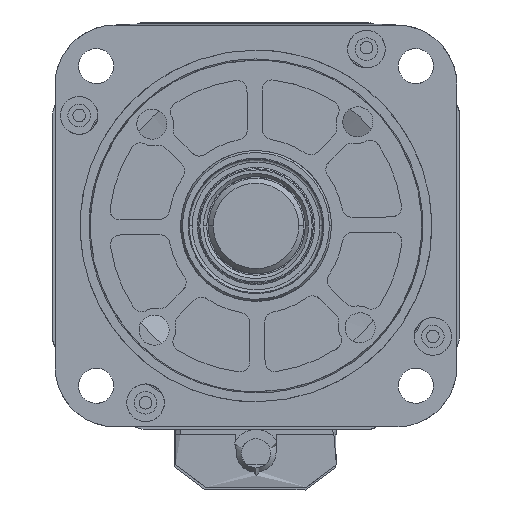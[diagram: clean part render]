
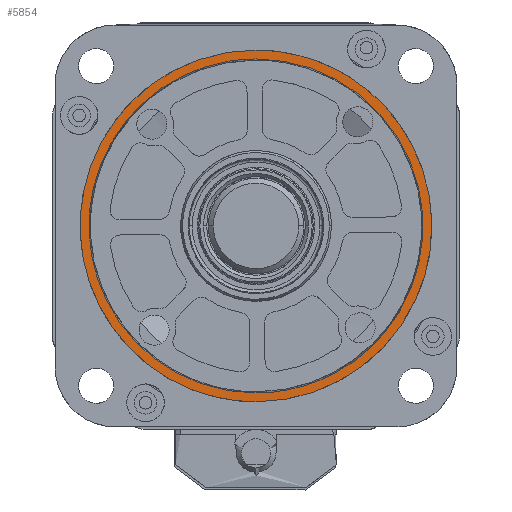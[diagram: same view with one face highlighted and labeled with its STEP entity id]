
A CAD part, left-side view. The second image highlights one B-rep face of the part: STEP entity #5854.
In plain terms, the highlighted free-form (B-spline) face has degree [1, 1] with [2, 2] control points.
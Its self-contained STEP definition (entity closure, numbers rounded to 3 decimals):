
#28 = CARTESIAN_POINT ( 'NONE',  ( -29.719, -37.31, 35.42 ) ) ;
#353 = ORIENTED_EDGE ( 'NONE', *, *, #11115, .F. ) ;
#1744 = CARTESIAN_POINT ( 'NONE',  ( -29.719, -1.89, -35. ) ) ;
#1923 = CARTESIAN_POINT ( 'NONE',  ( -29.719, -37.31, -35.42 ) ) ;
#2676 = FACE_OUTER_BOUND ( 'NONE', #16811, .T. ) ;
#3256 = CARTESIAN_POINT ( 'NONE',  ( -29.719, -1.89, -33.25 ) ) ;
#3331 = FACE_BOUND ( 'NONE', #8827, .T. ) ;
#3420 = EDGE_CURVE ( 'NONE', #13349, #6730, #10036, .T. ) ;
#3423 = CARTESIAN_POINT ( 'NONE',  ( -29.719, -1.89, 35. ) ) ;
#4642 = VERTEX_POINT ( 'NONE', #21099 ) ;
#4978 = CARTESIAN_POINT ( 'NONE',  ( -29.719, -1.89, 33.25 ) ) ;
#5297 = CARTESIAN_POINT ( 'NONE',  ( -29.719, 31.36, 0. ) ) ;
#5768 = EDGE_CURVE ( 'NONE', #4642, #19803, #19928, .T. ) ;
#5854 = ADVANCED_FACE ( 'NONE', ( #3331, #2676 ), #18238, .F. ) ;
#6021 = ORIENTED_EDGE ( 'NONE', *, *, #5768, .F. ) ;
#6192 = CARTESIAN_POINT ( 'NONE',  ( -29.719, -68.39, -33.25 ) ) ;
#6730 = VERTEX_POINT ( 'NONE', #14776 ) ;
#7203 = CARTESIAN_POINT ( 'NONE',  ( -29.719, 17.587, 33.25 ) ) ;
#8089 = CARTESIAN_POINT ( 'NONE',  ( -29.719, -1.89, 33.25 ) ) ;
#8827 = EDGE_LOOP ( 'NONE', ( #353, #13426 ) ) ;
#9372 = ORIENTED_EDGE ( 'NONE', *, *, #12222, .F. ) ;
#9707 = CARTESIAN_POINT ( 'NONE',  ( -29.719, 33.53, -35.42 ) ) ;
#10032 = CARTESIAN_POINT ( 'NONE',  ( -29.719, -1.89, -33.25 ) ) ;
#10036 =( BOUNDED_CURVE ( )  B_SPLINE_CURVE ( 3, ( #8089, #21609, #6192, #10032 ),
 .UNSPECIFIED., .F., .F. ) 
 B_SPLINE_CURVE_WITH_KNOTS ( ( 4, 4 ),
 ( -3.142, 0. ),
 .UNSPECIFIED. ) 
 CURVE ( )  GEOMETRIC_REPRESENTATION_ITEM ( )  RATIONAL_B_SPLINE_CURVE ( ( 1., 0.333, 0.333, 1. ) ) 
 REPRESENTATION_ITEM ( '' )  );
#11092 = CARTESIAN_POINT ( 'NONE',  ( -29.719, -71.89, -35. ) ) ;
#11115 = EDGE_CURVE ( 'NONE', #6730, #13349, #22064, .T. ) ;
#11411 = CARTESIAN_POINT ( 'NONE',  ( -29.719, 33.11, 0. ) ) ;
#11970 =( BOUNDED_CURVE ( )  B_SPLINE_CURVE ( 3, ( #21104, #19173, #23052, #11411, #24987, #13399, #1744 ),
 .UNSPECIFIED., .F., .T. ) 
 B_SPLINE_CURVE_WITH_KNOTS ( ( 4, 3, 4 ),
 ( -3.142, -1.571, 0. ),
 .UNSPECIFIED. ) 
 CURVE ( )  GEOMETRIC_REPRESENTATION_ITEM ( )  RATIONAL_B_SPLINE_CURVE ( ( 1., 0.805, 0.805, 1., 0.805, 0.805, 1. ) ) 
 REPRESENTATION_ITEM ( '' )  );
#12222 = EDGE_CURVE ( 'NONE', #19803, #4642, #11970, .T. ) ;
#13349 = VERTEX_POINT ( 'NONE', #4978 ) ;
#13399 = CARTESIAN_POINT ( 'NONE',  ( -29.719, 18.612, -35. ) ) ;
#13426 = ORIENTED_EDGE ( 'NONE', *, *, #3420, .F. ) ;
#13648 = CARTESIAN_POINT ( 'NONE',  ( -29.719, 33.53, 35.42 ) ) ;
#14776 = CARTESIAN_POINT ( 'NONE',  ( -29.719, -1.89, -33.25 ) ) ;
#15054 = CARTESIAN_POINT ( 'NONE',  ( -29.719, -71.89, 35. ) ) ;
#16811 = EDGE_LOOP ( 'NONE', ( #6021, #9372 ) ) ;
#16932 = CARTESIAN_POINT ( 'NONE',  ( -29.719, 31.36, -19.477 ) ) ;
#18238 = B_SPLINE_SURFACE_WITH_KNOTS ( 'NONE', 1, 1, ( 
 ( #1923, #9707 ),
 ( #28, #13648 ) ),
 .UNSPECIFIED., .F., .F., .F.,
 ( 2, 2 ),
 ( 2, 2 ),
 ( 0., 1. ),
 ( 0., 1. ),
 .UNSPECIFIED. ) ;
#18855 = CARTESIAN_POINT ( 'NONE',  ( -29.719, -1.89, -35. ) ) ;
#18858 = CARTESIAN_POINT ( 'NONE',  ( -29.719, 31.36, 19.477 ) ) ;
#19173 = CARTESIAN_POINT ( 'NONE',  ( -29.719, 18.612, 35. ) ) ;
#19803 = VERTEX_POINT ( 'NONE', #24711 ) ;
#19928 =( BOUNDED_CURVE ( )  B_SPLINE_CURVE ( 3, ( #18855, #11092, #15054, #3423 ),
 .UNSPECIFIED., .F., .T. ) 
 B_SPLINE_CURVE_WITH_KNOTS ( ( 4, 4 ),
 ( -3.142, 0. ),
 .UNSPECIFIED. ) 
 CURVE ( )  GEOMETRIC_REPRESENTATION_ITEM ( )  RATIONAL_B_SPLINE_CURVE ( ( 1., 0.333, 0.333, 1. ) ) 
 REPRESENTATION_ITEM ( '' )  );
#20794 = CARTESIAN_POINT ( 'NONE',  ( -29.719, -1.89, 33.25 ) ) ;
#21099 = CARTESIAN_POINT ( 'NONE',  ( -29.719, -1.89, -35. ) ) ;
#21104 = CARTESIAN_POINT ( 'NONE',  ( -29.719, -1.89, 35. ) ) ;
#21609 = CARTESIAN_POINT ( 'NONE',  ( -29.719, -68.39, 33.25 ) ) ;
#22064 =( BOUNDED_CURVE ( )  B_SPLINE_CURVE ( 3, ( #3256, #22665, #16932, #5297, #18858, #7203, #20794 ),
 .UNSPECIFIED., .F., .T. ) 
 B_SPLINE_CURVE_WITH_KNOTS ( ( 4, 3, 4 ),
 ( -3.142, -1.571, 0. ),
 .UNSPECIFIED. ) 
 CURVE ( )  GEOMETRIC_REPRESENTATION_ITEM ( )  RATIONAL_B_SPLINE_CURVE ( ( 1., 0.805, 0.805, 1., 0.805, 0.805, 1. ) ) 
 REPRESENTATION_ITEM ( '' )  );
#22665 = CARTESIAN_POINT ( 'NONE',  ( -29.719, 17.587, -33.25 ) ) ;
#23052 = CARTESIAN_POINT ( 'NONE',  ( -29.719, 33.11, 20.503 ) ) ;
#24711 = CARTESIAN_POINT ( 'NONE',  ( -29.719, -1.89, 35. ) ) ;
#24987 = CARTESIAN_POINT ( 'NONE',  ( -29.719, 33.11, -20.503 ) ) ;
